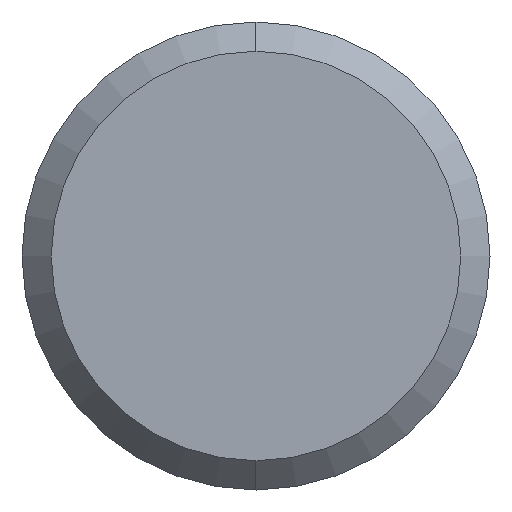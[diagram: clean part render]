
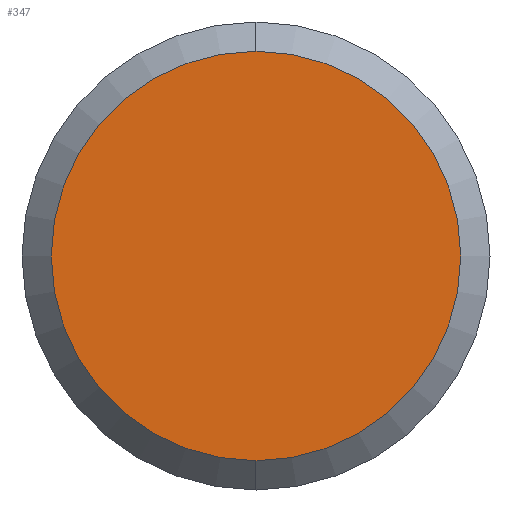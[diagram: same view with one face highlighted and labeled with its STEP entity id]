
A CAD part, left-side view. The second image highlights one B-rep face of the part: STEP entity #347.
In plain terms, the highlighted planar face has unit normal (-1, 0, 0).
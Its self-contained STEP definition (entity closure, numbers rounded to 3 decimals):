
#58 = DIRECTION ( 'NONE',  ( 0., 0., -1. ) ) ;
#61 = DIRECTION ( 'NONE',  ( -1., 0., 0. ) ) ;
#66 = CARTESIAN_POINT ( 'NONE',  ( -14.5, 0., 0. ) ) ;
#69 = AXIS2_PLACEMENT_3D ( 'NONE', #640, #279, #138 ) ;
#138 = DIRECTION ( 'NONE',  ( 0., 0., -1. ) ) ;
#142 = FACE_OUTER_BOUND ( 'NONE', #774, .T. ) ;
#143 = EDGE_CURVE ( 'NONE', #557, #295, #349, .T. ) ;
#235 = CIRCLE ( 'NONE', #474, 3.5 ) ;
#279 = DIRECTION ( 'NONE',  ( 1., 0., 0. ) ) ;
#295 = VERTEX_POINT ( 'NONE', #691 ) ;
#298 = ORIENTED_EDGE ( 'NONE', *, *, #143, .T. ) ;
#347 = ADVANCED_FACE ( 'NONE', ( #142 ), #539, .F. ) ;
#349 = CIRCLE ( 'NONE', #409, 3.5 ) ;
#409 = AXIS2_PLACEMENT_3D ( 'NONE', #66, #61, #58 ) ;
#469 = EDGE_CURVE ( 'NONE', #295, #557, #235, .T. ) ;
#474 = AXIS2_PLACEMENT_3D ( 'NONE', #639, #641, #633 ) ;
#539 = PLANE ( 'NONE',  #69 ) ;
#557 = VERTEX_POINT ( 'NONE', #730 ) ;
#633 = DIRECTION ( 'NONE',  ( 0., 0., -1. ) ) ;
#639 = CARTESIAN_POINT ( 'NONE',  ( -14.5, 0., 0. ) ) ;
#640 = CARTESIAN_POINT ( 'NONE',  ( -14.5, 4., 0. ) ) ;
#641 = DIRECTION ( 'NONE',  ( -1., 0., 0. ) ) ;
#674 = ORIENTED_EDGE ( 'NONE', *, *, #469, .T. ) ;
#691 = CARTESIAN_POINT ( 'NONE',  ( -14.5, 0., 3.5 ) ) ;
#730 = CARTESIAN_POINT ( 'NONE',  ( -14.5, 0., -3.5 ) ) ;
#774 = EDGE_LOOP ( 'NONE', ( #298, #674 ) ) ;
